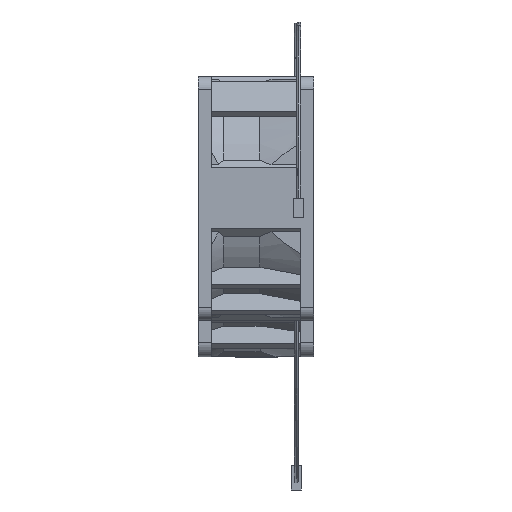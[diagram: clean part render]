
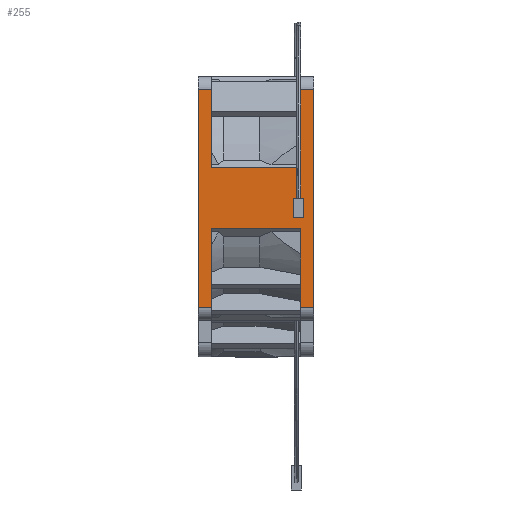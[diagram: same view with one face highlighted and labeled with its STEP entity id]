
A CAD part, left-side view. The second image highlights one B-rep face of the part: STEP entity #255.
In plain terms, the highlighted planar face has unit normal (-1, 0, 0).
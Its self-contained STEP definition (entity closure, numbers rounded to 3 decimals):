
#255=ADVANCED_FACE('',(#1503),#1504,.T.);
#1503=FACE_OUTER_BOUND('',#3840,.T.);
#1504=PLANE('',#3841);
#3840=EDGE_LOOP('',(#10372,#10373,#10374,#10375,#10376,#10377,#10378,#10379,#10380,#10381,#10382,#10383));
#3841=AXIS2_PLACEMENT_3D('',#10384,#10385,#10386);
#10372=ORIENTED_EDGE('',*,*,#17487,.F.);
#10373=ORIENTED_EDGE('',*,*,#17658,.F.);
#10374=ORIENTED_EDGE('',*,*,#16873,.T.);
#10375=ORIENTED_EDGE('',*,*,#17659,.T.);
#10376=ORIENTED_EDGE('',*,*,#17512,.F.);
#10377=ORIENTED_EDGE('',*,*,#17657,.T.);
#10378=ORIENTED_EDGE('',*,*,#17415,.T.);
#10379=ORIENTED_EDGE('',*,*,#17660,.F.);
#10380=ORIENTED_EDGE('',*,*,#17309,.F.);
#10381=ORIENTED_EDGE('',*,*,#17661,.T.);
#10382=ORIENTED_EDGE('',*,*,#17368,.T.);
#10383=ORIENTED_EDGE('',*,*,#17599,.F.);
#10384=CARTESIAN_POINT('',(-40.0,0.0,-35.75));
#10385=DIRECTION('',(-1.0,0.0,0.0));
#10386=DIRECTION('',(0.0,0.0,1.0));
#16873=EDGE_CURVE('',#19935,#19933,#19936,.T.);
#17309=EDGE_CURVE('',#20662,#20664,#20665,.T.);
#17368=EDGE_CURVE('',#20773,#20771,#20774,.T.);
#17415=EDGE_CURVE('',#20866,#20864,#20867,.T.);
#17487=EDGE_CURVE('',#20997,#20999,#21000,.T.);
#17512=EDGE_CURVE('',#21043,#21045,#21046,.T.);
#17599=EDGE_CURVE('',#20999,#20771,#21187,.T.);
#17657=EDGE_CURVE('',#21043,#20866,#21285,.T.);
#17658=EDGE_CURVE('',#19935,#20997,#21286,.T.);
#17659=EDGE_CURVE('',#19933,#21045,#21287,.T.);
#17660=EDGE_CURVE('',#20664,#20864,#21288,.T.);
#17661=EDGE_CURVE('',#20662,#20773,#21289,.T.);
#19933=VERTEX_POINT('',#25060);
#19935=VERTEX_POINT('',#25062);
#19936=LINE('',#25063,#25064);
#20662=VERTEX_POINT('',#26803);
#20664=VERTEX_POINT('',#26805);
#20665=LINE('',#26806,#26807);
#20771=VERTEX_POINT('',#26939);
#20773=VERTEX_POINT('',#26942);
#20774=LINE('',#26943,#26944);
#20864=VERTEX_POINT('',#27066);
#20866=VERTEX_POINT('',#27068);
#20867=LINE('',#27069,#27070);
#20997=VERTEX_POINT('',#27313);
#20999=VERTEX_POINT('',#27315);
#21000=LINE('',#27316,#27317);
#21043=VERTEX_POINT('',#27377);
#21045=VERTEX_POINT('',#27380);
#21046=LINE('',#27381,#27382);
#21187=LINE('',#27646,#27647);
#21285=LINE('',#27920,#27921);
#21286=LINE('',#27922,#27923);
#21287=LINE('',#27924,#27925);
#21288=LINE('',#27926,#27927);
#21289=LINE('',#27928,#27929);
#25060=CARTESIAN_POINT('',(-40.0,0.0,35.75));
#25062=CARTESIAN_POINT('',(-40.0,0.0,-35.75));
#25063=CARTESIAN_POINT('',(-40.0,0.0,-35.75));
#25064=VECTOR('',#35129,71.5);
#26803=CARTESIAN_POINT('',(-40.0,38.0,-35.75));
#26805=CARTESIAN_POINT('',(-40.0,38.0,35.75));
#26806=CARTESIAN_POINT('',(-40.0,38.0,-35.75));
#26807=VECTOR('',#35670,71.5);
#26939=CARTESIAN_POINT('',(-40.0,33.7,-10.0));
#26942=CARTESIAN_POINT('',(-40.0,33.7,-35.75));
#26943=CARTESIAN_POINT('',(-40.0,33.7,-35.75));
#26944=VECTOR('',#35791,25.75);
#27066=CARTESIAN_POINT('',(-40.0,33.7,35.75));
#27068=CARTESIAN_POINT('',(-40.0,33.7,10.0));
#27069=CARTESIAN_POINT('',(-40.0,33.7,10.0));
#27070=VECTOR('',#35866,25.75);
#27313=CARTESIAN_POINT('',(-40.0,4.3,-35.75));
#27315=CARTESIAN_POINT('',(-40.0,4.3,-10.0));
#27316=CARTESIAN_POINT('',(-40.0,4.3,-35.75));
#27317=VECTOR('',#35970,25.75);
#27377=CARTESIAN_POINT('',(-40.0,4.3,10.0));
#27380=CARTESIAN_POINT('',(-40.0,4.3,35.75));
#27381=CARTESIAN_POINT('',(-40.0,4.3,10.0));
#27382=VECTOR('',#36007,25.75);
#27646=CARTESIAN_POINT('',(-40.0,4.3,-10.0));
#27647=VECTOR('',#36118,29.4);
#27920=CARTESIAN_POINT('',(-40.0,4.3,10.0));
#27921=VECTOR('',#36174,29.4);
#27922=CARTESIAN_POINT('',(-40.0,0.0,-35.75));
#27923=VECTOR('',#36175,4.3);
#27924=CARTESIAN_POINT('',(-40.0,0.0,35.75));
#27925=VECTOR('',#36176,4.3);
#27926=CARTESIAN_POINT('',(-40.0,38.0,35.75));
#27927=VECTOR('',#36177,4.3);
#27928=CARTESIAN_POINT('',(-40.0,38.0,-35.75));
#27929=VECTOR('',#36178,4.3);
#35129=DIRECTION('',(0.0,0.0,1.0));
#35670=DIRECTION('',(0.0,0.0,1.0));
#35791=DIRECTION('',(0.0,0.0,1.0));
#35866=DIRECTION('',(0.0,0.0,1.0));
#35970=DIRECTION('',(0.0,0.0,1.0));
#36007=DIRECTION('',(0.0,0.0,1.0));
#36118=DIRECTION('',(0.0,1.0,0.0));
#36174=DIRECTION('',(0.0,1.0,0.0));
#36175=DIRECTION('',(0.0,1.0,0.0));
#36176=DIRECTION('',(0.0,1.0,0.0));
#36177=DIRECTION('',(0.0,-1.0,0.0));
#36178=DIRECTION('',(0.0,-1.0,0.0));
